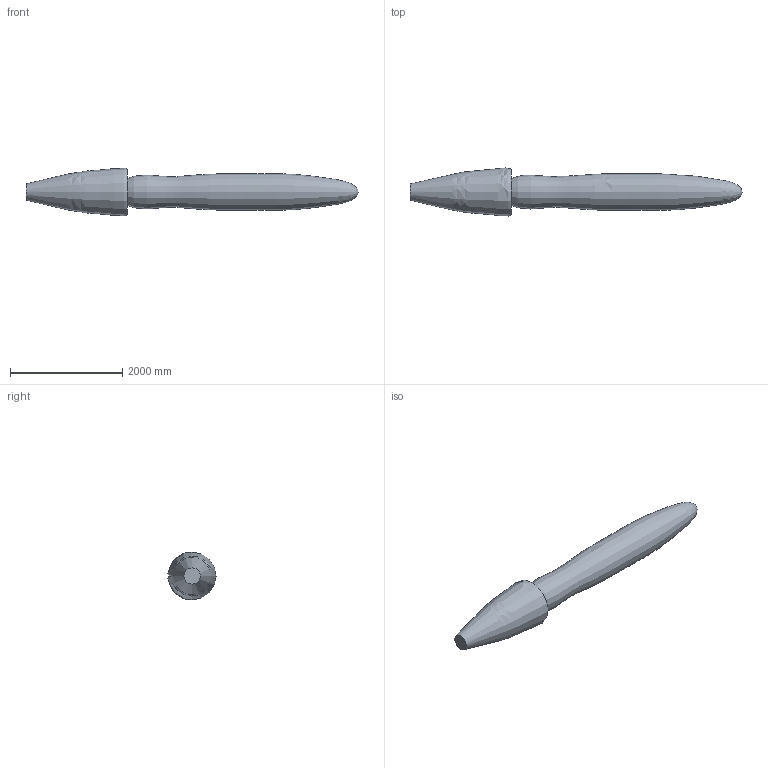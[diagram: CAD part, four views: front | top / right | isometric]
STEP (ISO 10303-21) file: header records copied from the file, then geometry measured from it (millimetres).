
FILE_DESCRIPTION((''),'2;1');
FILE_NAME('C:\Dokumente und Einstellungen\Kramp\Eigene Dateien\Microsonic Nacharbeit 2\restliche Änderungen\STP\Schallfeld Betriebstastw 6000mm Rohr.stp','2005-08-11T08:22:55',('Kramp'),(''),'Autodesk Inventor 7','Autodesk Inventor 7','');
FILE_SCHEMA(('AUTOMOTIVE_DESIGN { 1 0 10303 214 1 1 1 1 }'));
Length unit declared in the file: millimetre
Products named in the file (1): Schallfeld Betriebstastw 6000mm Rohr
Bounding box: 5904 x 854.77 x 853.03 mm (x, y, z)
Volume: 1647934250.1 mm3; surface area: 12153192.1 mm2
Topology: 1 solids, 1 shells, 2 faces, 3 edges, 2 vertices
Faces by surface type: bspline 1, plane 1
Entity records: 268 total; most frequent: CARTESIAN_POINT 215, DIRECTION 6, ORIENTED_EDGE 4, AXIS2_PLACEMENT_3D 3, VERTEX_POINT 2, EDGE_CURVE 2, EDGE_LOOP 2, FACE_OUTER_BOUND 2
